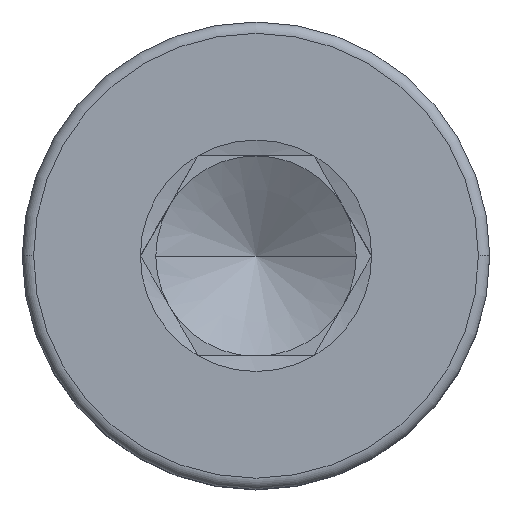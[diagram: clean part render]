
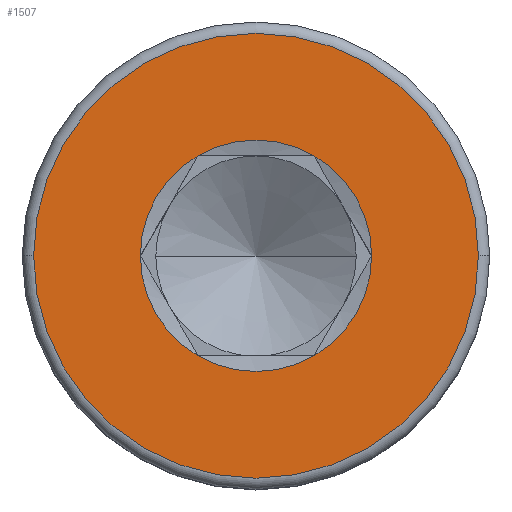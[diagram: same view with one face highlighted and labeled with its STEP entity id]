
A CAD part, top view. The second image highlights one B-rep face of the part: STEP entity #1507.
In plain terms, the highlighted planar face has unit normal (0, 0, 1).
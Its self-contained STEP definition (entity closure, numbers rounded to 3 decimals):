
#24 = CARTESIAN_POINT ( 'NONE',  ( -0.866, 1.5, 4. ) ) ;
#31 = DIRECTION ( 'NONE',  ( 1., 0., 0. ) ) ;
#50 = ORIENTED_EDGE ( 'NONE', *, *, #1629, .T. ) ;
#124 = CIRCLE ( 'NONE', #420, 1.732 ) ;
#135 = DIRECTION ( 'NONE',  ( 0., 0., 1. ) ) ;
#167 = VERTEX_POINT ( 'NONE', #311 ) ;
#184 = AXIS2_PLACEMENT_3D ( 'NONE', #294, #345, #1177 ) ;
#193 = VERTEX_POINT ( 'NONE', #24 ) ;
#208 = CARTESIAN_POINT ( 'NONE',  ( 0.866, 1.5, 4. ) ) ;
#210 = EDGE_LOOP ( 'NONE', ( #50, #417 ) ) ;
#218 = DIRECTION ( 'NONE',  ( 1., 0., 0. ) ) ;
#237 = CARTESIAN_POINT ( 'NONE',  ( 0., 0., 4. ) ) ;
#245 = CARTESIAN_POINT ( 'NONE',  ( 0., 0., 4. ) ) ;
#259 = CIRCLE ( 'NONE', #1493, 1.732 ) ;
#264 = CIRCLE ( 'NONE', #1153, 1.732 ) ;
#277 = DIRECTION ( 'NONE',  ( 1., 0., 0. ) ) ;
#284 = CARTESIAN_POINT ( 'NONE',  ( 0., 0., 4. ) ) ;
#294 = CARTESIAN_POINT ( 'NONE',  ( 0., 0., 4. ) ) ;
#311 = CARTESIAN_POINT ( 'NONE',  ( 0.866, -1.5, 4. ) ) ;
#340 = PLANE ( 'NONE',  #184 ) ;
#345 = DIRECTION ( 'NONE',  ( 0., 0., 1. ) ) ;
#374 = EDGE_CURVE ( 'NONE', #167, #1428, #259, .T. ) ;
#375 = CARTESIAN_POINT ( 'NONE',  ( 3.33, 0., 4. ) ) ;
#376 = CARTESIAN_POINT ( 'NONE',  ( 0., 0., 4. ) ) ;
#388 = CIRCLE ( 'NONE', #1590, 3.33 ) ;
#417 = ORIENTED_EDGE ( 'NONE', *, *, #1787, .T. ) ;
#420 = AXIS2_PLACEMENT_3D ( 'NONE', #237, #1067, #1490 ) ;
#434 = ORIENTED_EDGE ( 'NONE', *, *, #567, .F. ) ;
#435 = DIRECTION ( 'NONE',  ( 0., 0., 1. ) ) ;
#439 = VERTEX_POINT ( 'NONE', #533 ) ;
#490 = VERTEX_POINT ( 'NONE', #375 ) ;
#524 = DIRECTION ( 'NONE',  ( 0., 0., 1. ) ) ;
#533 = CARTESIAN_POINT ( 'NONE',  ( -1.732, 0., 4. ) ) ;
#567 = EDGE_CURVE ( 'NONE', #439, #622, #578, .T. ) ;
#578 = CIRCLE ( 'NONE', #790, 1.732 ) ;
#588 = CARTESIAN_POINT ( 'NONE',  ( 0., 0., 4. ) ) ;
#608 = CIRCLE ( 'NONE', #1361, 3.33 ) ;
#622 = VERTEX_POINT ( 'NONE', #1226 ) ;
#682 = ORIENTED_EDGE ( 'NONE', *, *, #722, .F. ) ;
#718 = CARTESIAN_POINT ( 'NONE',  ( -3.33, 0., 4. ) ) ;
#722 = EDGE_CURVE ( 'NONE', #1428, #959, #1690, .T. ) ;
#749 = EDGE_LOOP ( 'NONE', ( #682, #1525, #922, #434, #1776, #1447 ) ) ;
#790 = AXIS2_PLACEMENT_3D ( 'NONE', #588, #524, #218 ) ;
#813 = DIRECTION ( 'NONE',  ( 1., 0., 0. ) ) ;
#841 = DIRECTION ( 'NONE',  ( 1., 0., 0. ) ) ;
#904 = FACE_OUTER_BOUND ( 'NONE', #210, .T. ) ;
#915 = DIRECTION ( 'NONE',  ( 0., 0., 1. ) ) ;
#919 = DIRECTION ( 'NONE',  ( 0., 0., 1. ) ) ;
#922 = ORIENTED_EDGE ( 'NONE', *, *, #1699, .F. ) ;
#959 = VERTEX_POINT ( 'NONE', #208 ) ;
#977 = DIRECTION ( 'NONE',  ( 0., 0., 1. ) ) ;
#1029 = CARTESIAN_POINT ( 'NONE',  ( 0., 0., 4. ) ) ;
#1052 = CARTESIAN_POINT ( 'NONE',  ( 0., 0., 4. ) ) ;
#1067 = DIRECTION ( 'NONE',  ( 0., 0., 1. ) ) ;
#1146 = AXIS2_PLACEMENT_3D ( 'NONE', #245, #135, #277 ) ;
#1153 = AXIS2_PLACEMENT_3D ( 'NONE', #1456, #1319, #1554 ) ;
#1177 = DIRECTION ( 'NONE',  ( 1., 0., 0. ) ) ;
#1191 = EDGE_CURVE ( 'NONE', #193, #439, #1413, .T. ) ;
#1210 = DIRECTION ( 'NONE',  ( 1., 0., 0. ) ) ;
#1226 = CARTESIAN_POINT ( 'NONE',  ( -0.866, -1.5, 4. ) ) ;
#1241 = AXIS2_PLACEMENT_3D ( 'NONE', #284, #977, #841 ) ;
#1319 = DIRECTION ( 'NONE',  ( 0., 0., 1. ) ) ;
#1361 = AXIS2_PLACEMENT_3D ( 'NONE', #1052, #915, #813 ) ;
#1413 = CIRCLE ( 'NONE', #1241, 1.732 ) ;
#1428 = VERTEX_POINT ( 'NONE', #1557 ) ;
#1447 = ORIENTED_EDGE ( 'NONE', *, *, #1575, .F. ) ;
#1456 = CARTESIAN_POINT ( 'NONE',  ( 0., 0., 4. ) ) ;
#1465 = FACE_BOUND ( 'NONE', #749, .T. ) ;
#1490 = DIRECTION ( 'NONE',  ( 1., 0., 0. ) ) ;
#1493 = AXIS2_PLACEMENT_3D ( 'NONE', #376, #919, #1210 ) ;
#1507 = ADVANCED_FACE ( 'NONE', ( #904, #1465 ), #340, .T. ) ;
#1525 = ORIENTED_EDGE ( 'NONE', *, *, #374, .F. ) ;
#1554 = DIRECTION ( 'NONE',  ( 1., 0., 0. ) ) ;
#1557 = CARTESIAN_POINT ( 'NONE',  ( 1.732, 0., 4. ) ) ;
#1561 = VERTEX_POINT ( 'NONE', #718 ) ;
#1575 = EDGE_CURVE ( 'NONE', #959, #193, #264, .T. ) ;
#1590 = AXIS2_PLACEMENT_3D ( 'NONE', #1029, #435, #31 ) ;
#1629 = EDGE_CURVE ( 'NONE', #490, #1561, #388, .T. ) ;
#1690 = CIRCLE ( 'NONE', #1146, 1.732 ) ;
#1699 = EDGE_CURVE ( 'NONE', #622, #167, #124, .T. ) ;
#1776 = ORIENTED_EDGE ( 'NONE', *, *, #1191, .F. ) ;
#1787 = EDGE_CURVE ( 'NONE', #1561, #490, #608, .T. ) ;
